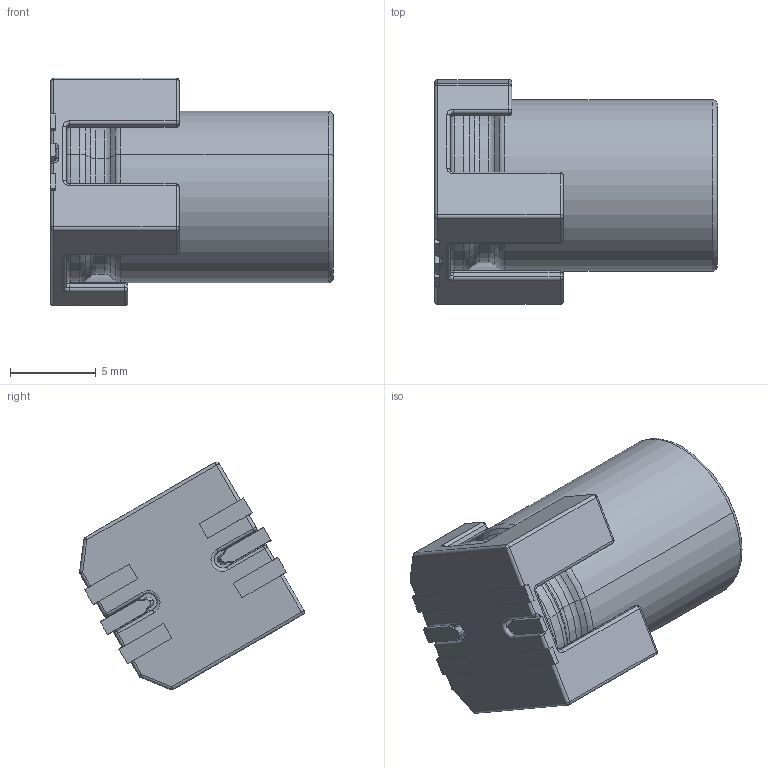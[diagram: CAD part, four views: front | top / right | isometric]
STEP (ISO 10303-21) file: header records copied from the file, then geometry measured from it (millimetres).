
FILE_DESCRIPTION((''),'2;1');
FILE_NAME('HYBRIDSMD10X165_ASM','2020-06-03T',('xy'),(''),'PRO/ENGINEER BY PARAMETRIC TECHNOLOGY CORPORATION, 2009380','PRO/ENGINEER BY PARAMETRIC TECHNOLOGY CORPORATION, 2009380','');
FILE_SCHEMA(('CONFIG_CONTROL_DESIGN'));
Length unit declared in the file: millimetre
Products named in the file (3): HYBRIDSMD10X165; ZB10A; HYBRIDSMD10X165_ASM
Assembly tree (2 placements, depth 2):
  HYBRIDSMD10X165_ASM
    HYBRIDSMD10X165
    ZB10A
Bounding box: 16.52 x 13.12 x 13.3 mm (x, y, z)
Volume: 1391.8 mm3; surface area: 1117 mm2
Topology: 2 solids, 2 shells, 654 faces, 1705 edges, 1074 vertices
Faces by surface type: plane 442, cylinder 98, torus 55, sphere 32, bspline 23, cone 4
Entity records: 20990 total; most frequent: CARTESIAN_POINT 4886, ORIENTED_EDGE 3402, DIRECTION 3222, EDGE_CURVE 1701, VECTOR 1332, LINE 1332, VERTEX_POINT 1074, AXIS2_PLACEMENT_3D 945
